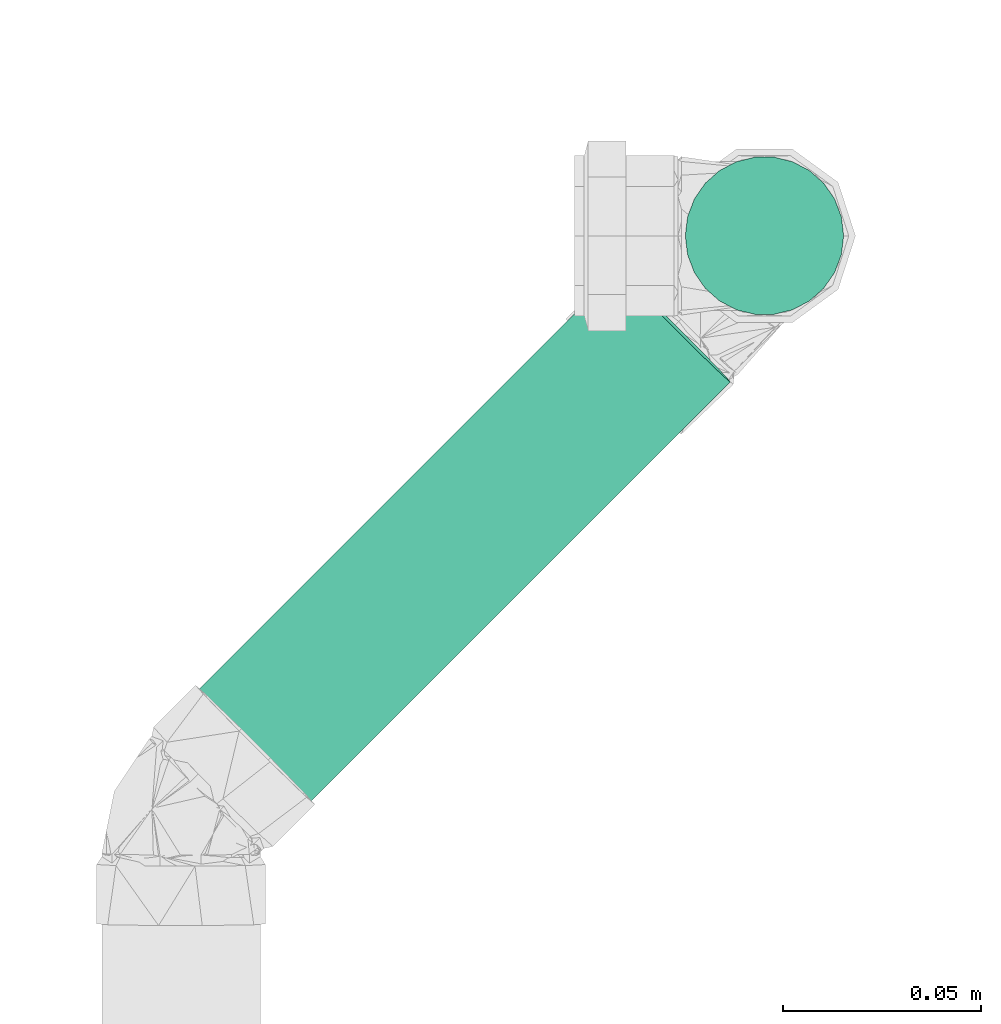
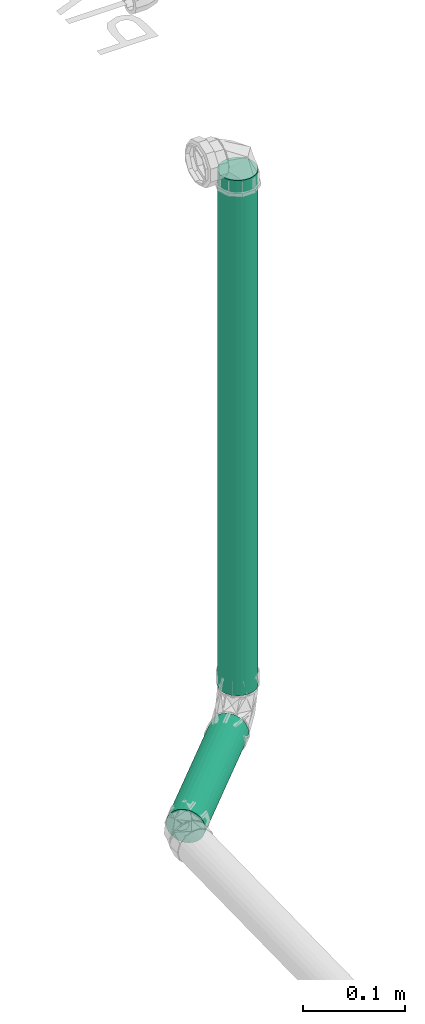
# One storey, part 103 of 589: 2 flow segments.
"""IFC2X3 building model written with IfcOpenShell, lengths in millimetres."""

from ifc_helpers import new_model, entity, si_unit, converted_unit, derived_unit, direction, frame, frame_2d, origin, place, context, subcontext, project, spatial, circle, extrude, type_object, element, save


model = new_model("IFC2X3")

# Units and contexts
model_context = context("Model", 3, precision=0.01, world=origin(), true_north=direction((6.123031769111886e-17, 1.0)))
body_context = subcontext(model_context, "Body", "Model", "MODEL_VIEW")
ifc_project = project(units=[si_unit("LENGTHUNIT", "METRE", prefix="MILLI"), si_unit("AREAUNIT", "SQUARE_METRE"), si_unit("VOLUMEUNIT", "CUBIC_METRE"), converted_unit("PLANEANGLEUNIT", "DEGREE", entity("IfcRatioMeasure", 0.017453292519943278), si_unit("PLANEANGLEUNIT", "RADIAN"), dimensions=[0, 0, 0, 0, 0, 0, 0]), si_unit("MASSUNIT", "GRAM", prefix="KILO"), derived_unit("MASSDENSITYUNIT", [(si_unit("MASSUNIT", "GRAM", prefix="KILO"), 1), (si_unit("LENGTHUNIT", "METRE"), -3)]), derived_unit("IONCONCENTRATIONUNIT", [(si_unit("MASSUNIT", "GRAM", prefix="KILO"), 1), (si_unit("LENGTHUNIT", "METRE"), -3)]), derived_unit("MOMENTOFINERTIAUNIT", [(si_unit("LENGTHUNIT", "METRE"), 4)]), si_unit("TIMEUNIT", "SECOND"), si_unit("FREQUENCYUNIT", "HERTZ"), si_unit("THERMODYNAMICTEMPERATUREUNIT", "DEGREE_CELSIUS"), derived_unit("THERMALTRANSMITTANCEUNIT", [(si_unit("MASSUNIT", "GRAM", prefix="KILO"), 1), (si_unit("THERMODYNAMICTEMPERATUREUNIT", "KELVIN"), -1), (si_unit("TIMEUNIT", "SECOND"), -3)]), derived_unit("THERMALCONDUCTANCEUNIT", [(si_unit("MASSUNIT", "GRAM", prefix="KILO"), 1), (si_unit("THERMODYNAMICTEMPERATUREUNIT", "KELVIN"), -1), (si_unit("TIMEUNIT", "SECOND"), -3), (si_unit("LENGTHUNIT", "METRE"), 1)]), derived_unit("VOLUMETRICFLOWRATEUNIT", [(si_unit("LENGTHUNIT", "METRE"), 3), (si_unit("TIMEUNIT", "SECOND"), -1)]), derived_unit("MASSFLOWRATEUNIT", [(si_unit("MASSUNIT", "GRAM", prefix="KILO"), 1), (si_unit("TIMEUNIT", "SECOND"), -1)]), derived_unit("ROTATIONALFREQUENCYUNIT", [(si_unit("TIMEUNIT", "SECOND"), -1)]), si_unit("ELECTRICCURRENTUNIT", "AMPERE"), si_unit("ELECTRICVOLTAGEUNIT", "VOLT"), si_unit("POWERUNIT", "WATT"), si_unit("FORCEUNIT", "NEWTON", prefix="KILO"), si_unit("ILLUMINANCEUNIT", "LUX"), si_unit("LUMINOUSFLUXUNIT", "LUMEN"), si_unit("LUMINOUSINTENSITYUNIT", "CANDELA"), derived_unit("USERDEFINED", [(si_unit("MASSUNIT", "GRAM", prefix="KILO"), -1), (si_unit("LENGTHUNIT", "METRE"), -2), (si_unit("TIMEUNIT", "SECOND"), 3), (si_unit("LUMINOUSFLUXUNIT", "LUMEN"), 1)]), derived_unit("USERDEFINED", [(si_unit("MASSUNIT", "GRAM", prefix="KILO"), 1), (si_unit("TIMEUNIT", "SECOND"), -3), (si_unit("LENGTHUNIT", "METRE"), 3), (si_unit("ELECTRICCURRENTUNIT", "AMPERE"), -2)]), derived_unit("SOUNDPOWERUNIT", [(si_unit("MASSUNIT", "GRAM", prefix="KILO"), 1), (si_unit("TIMEUNIT", "SECOND"), -3), (si_unit("LENGTHUNIT", "METRE"), 2)]), derived_unit("SOUNDPRESSUREUNIT", [(si_unit("MASSUNIT", "GRAM", prefix="KILO"), 1), (si_unit("LENGTHUNIT", "METRE"), -1), (si_unit("TIMEUNIT", "SECOND"), -2)]), derived_unit("LINEARVELOCITYUNIT", [(si_unit("LENGTHUNIT", "METRE"), 1), (si_unit("TIMEUNIT", "SECOND"), -1)]), si_unit("PRESSUREUNIT", "PASCAL"), derived_unit("USERDEFINED", [(si_unit("MASSUNIT", "GRAM", prefix="KILO"), 1), (si_unit("LENGTHUNIT", "METRE"), -2), (si_unit("TIMEUNIT", "SECOND"), -2)]), derived_unit("LINEARFORCEUNIT", [(si_unit("MASSUNIT", "GRAM", prefix="KILO"), 1), (si_unit("TIMEUNIT", "SECOND"), -2)]), derived_unit("PLANARFORCEUNIT", [(si_unit("MASSUNIT", "GRAM", prefix="KILO"), 1), (si_unit("LENGTHUNIT", "METRE"), -1), (si_unit("TIMEUNIT", "SECOND"), -2)]), derived_unit("SPECIFICHEATCAPACITYUNIT", [(si_unit("THERMODYNAMICTEMPERATUREUNIT", "KELVIN"), -1), (si_unit("LENGTHUNIT", "METRE"), 2), (si_unit("TIMEUNIT", "SECOND"), -2)]), derived_unit("HEATINGVALUEUNIT", [(si_unit("LENGTHUNIT", "METRE"), 2), (si_unit("TIMEUNIT", "SECOND"), -2)]), derived_unit("VAPORPERMEABILITYUNIT", [(si_unit("LENGTHUNIT", "METRE"), -1), (si_unit("TIMEUNIT", "SECOND"), 1)]), derived_unit("DYNAMICVISCOSITYUNIT", [(si_unit("MASSUNIT", "GRAM", prefix="KILO"), 1), (si_unit("TIMEUNIT", "SECOND"), -1), (si_unit("LENGTHUNIT", "METRE"), -1)]), derived_unit("THERMALEXPANSIONCOEFFICIENTUNIT", [(si_unit("THERMODYNAMICTEMPERATUREUNIT", "KELVIN"), -1)]), derived_unit("MODULUSOFELASTICITYUNIT", [(si_unit("MASSUNIT", "GRAM", prefix="KILO"), 1), (si_unit("LENGTHUNIT", "METRE"), -1), (si_unit("TIMEUNIT", "SECOND"), -2)]), derived_unit("ISOTHERMALMOISTURECAPACITYUNIT", [(si_unit("LENGTHUNIT", "METRE"), 3), (si_unit("MASSUNIT", "GRAM", prefix="KILO"), -1)]), derived_unit("MOISTUREDIFFUSIVITYUNIT", [(si_unit("TIMEUNIT", "SECOND"), -1), (si_unit("LENGTHUNIT", "METRE"), 2)])], contexts=[model_context])

# Site, building, storey
site_placement = place(None, origin())
site = spatial("IfcSite", under=ifc_project, at=site_placement, Name="Default", CompositionType="ELEMENT")
building_placement = place(site_placement, origin())
building = spatial("IfcBuilding", under=site, at=building_placement, CompositionType="ELEMENT")
storey_placement = place(building_placement, frame((0.0, 0.0, 100.0)))
storey = spatial("IfcBuildingStorey", under=building, at=storey_placement, Name="TÉRREO", CompositionType="ELEMENT", Elevation=100.0)

# Flow segments
pipe_segment_type = type_object("IfcPipeSegmentType", Name="Tipos de tubos:PVC Esgoto Série Normal", PredefinedType="NOTDEFINED")
flow_segment_1_placement = place(storey_placement, origin())
element("IfcFlowSegment", 1, at=flow_segment_1_placement, inside=storey, type_object=pipe_segment_type, Name="Tipos de tubos:PVC Esgoto Série Normal", ObjectType="Tipos de tubos:PVC Esgoto Série Normal", context=body_context, shape_type="SweptSolid", body=[
    extrude(circle(Radius=20.0, at=frame_2d((0.0, -1.69165460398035e-14), x_axis=(1.0, 0.0))), frame((-2879.3794516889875, 458.18058151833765, -172.15749097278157), z_axis=(0.7070415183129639, 0.7069001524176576, 0.01960780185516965), x_axis=(-0.7070360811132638, 0.7071774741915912, 0.0)), (0.0, 0.0, 1.0), 164.64813479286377),
])
flow_segment_2_placement = place(storey_placement, origin())
element("IfcFlowSegment", 2, at=flow_segment_2_placement, inside=storey, type_object=pipe_segment_type, Name="Tipos de tubos:PVC Esgoto Série Normal", ObjectType="Tipos de tubos:PVC Esgoto Série Normal", context=body_context, shape_type="SweptSolid", body=[
    extrude(circle(Radius=20.0, at=frame_2d((1.2049034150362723e-18, 2.94658271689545e-18), x_axis=(1.0, 0.0))), frame((-2740.1873298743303, 597.3448732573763, -136.07996866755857)), (0.0, 0.0, 1.0), 614.2799693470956),
])

save(model, "model.ifc")
